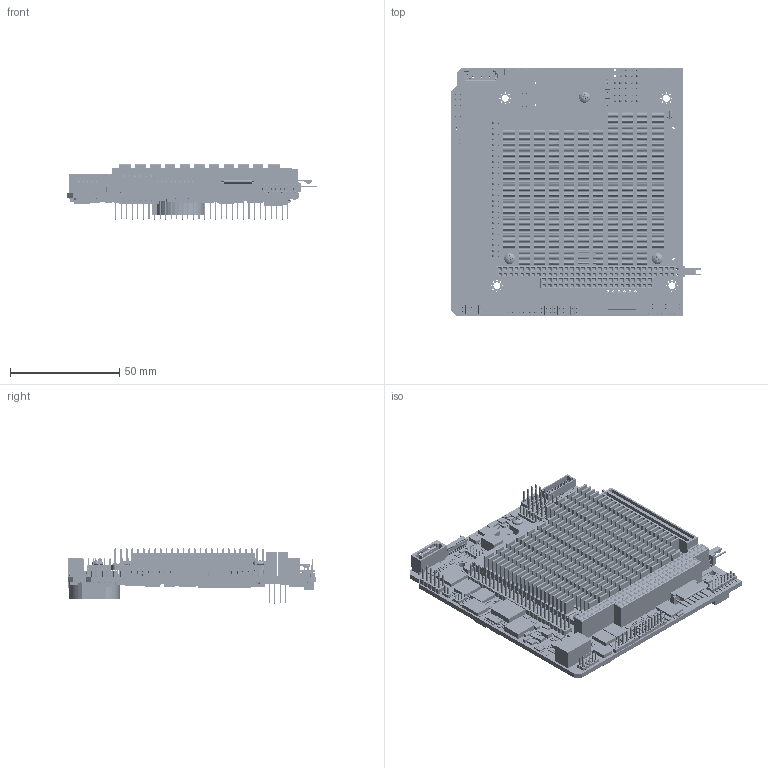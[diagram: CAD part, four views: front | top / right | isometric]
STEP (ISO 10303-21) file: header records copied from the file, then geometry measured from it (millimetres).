
FILE_DESCRIPTION (( 'STEP AP203' ), '1' );
FILE_NAME ('ATH_III_21-04-2014_battery.STEP', '2014-04-21T10:26:17', ( '' ), ( '' ), 'SwSTEP 2.0', 'SolidWorks 2014', '' );
FILE_SCHEMA (( 'CONFIG_CONTROL_DESIGN' ));
Length unit declared in the file: millimetre
Products named in the file (43): BM30B-SRDS-G-TF; 2011-2X10G00SB; 7120650_A_ATHENA-III_06Feb13; 90116A110_M2.5x6_90116A110; 222-92-08GBT7傷赽; 532610671; P50E-080P1-S1-XX; 124; c-0640457-02-s-3d; ATH_III_21-04-2014_battery; 2115-2X08G00DN; 92871A170_92871A170; 962-6032x-12_C_3D-STEP; 2011-2s; 678008025; 222-92-08GBT7呿蝶; 1x7pin; 962-6020x-12_C_3D-STEP; 877581016; 10X124; c-0640457-06-s-3d; 2011-2X5G00SB; 2115-2X05G00DN; 532610971; 1x2pin; 2011-1X6G00SB; 2x2; 2x4; 2011-2X4G00SB; SP0298     104-(10)heat-sink; 2115-2X08G00DN-1.7U
Assembly tree (91 placements, depth 3):
  ATH_III_21-04-2014_battery
    7120650_A_ATHENA-III_06Feb13
    c-0640457-02-s-3d
    678008025
    877581016  x2
    2011-2X10G00SB  x2
      10X124
      2011-2s
      2011-2s
      2011-2s
    2011-2X5G00SB  x4
      124
      2011-2s
      2011-2s
      2011-2s
    2011-2X4G00SB
      124
      2011-2s  x8
    BM30B-SRDS-G-TF
    P50E-080P1-S1-XX
    962-6032x-12_C_3D-STEP
    962-6020x-12_C_3D-STEP
    c-0640457-06-s-3d
    532610971
    2115-2X08G00DN-1.7U
      222-92-08GBT7呿蝶
      222-92-08GBT7傷赽
    532610671
    92871A170_92871A170  x3
    1x7pin
    2011-1X6G00SB
      10X124
      2011-2s
      2011-2s  x5
    2x4
    2115-2X08G00DN
      222-92-08GBT7呿蝶
      222-92-08GBT7傷赽  x2
      222-92-08GBT7傷赽
    2115-2X05G00DN
      222-92-08GBT7呿蝶
      222-92-08GBT7傷赽
      222-92-08GBT7傷赽
    1x2pin
    2x2
    SP0298     104-(10)heat-sink
    90116A110_M2.5x6_90116A110  x3
  222-92-08GBT7傷赽
  2011-2s
Bounding box: 114.24 x 113.67 x 25.25 mm (x, y, z)
Volume: 86130.8 mm3; surface area: 116487.2 mm2
Topology: 1777 solids, 1777 shells, 32759 faces, 78784 edges, 50101 vertices
Faces by surface type: plane 23205, cylinder 6767, bspline 2740, cone 29, torus 12, sphere 6
Entity records: 865886 total; most frequent: CARTESIAN_POINT 203603, ORIENTED_EDGE 137300, DIRECTION 130483, EDGE_CURVE 68650, VECTOR 51723, LINE 51723, VERTEX_POINT 43795, AXIS2_PLACEMENT_3D 39380
